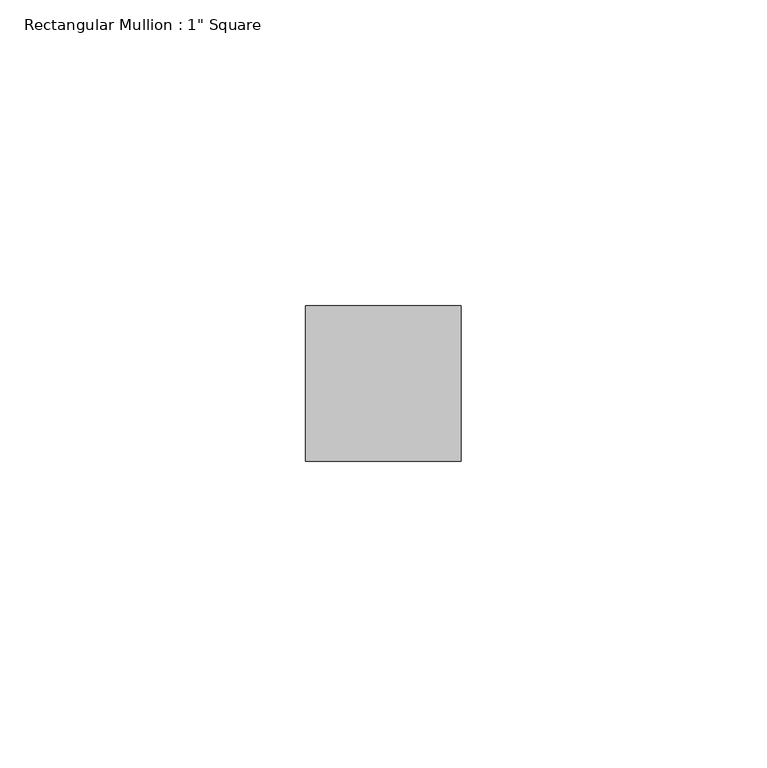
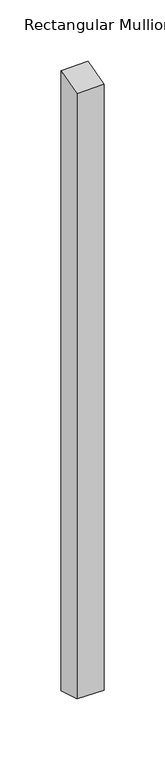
"""IFC4 building model written with IfcOpenShell, lengths in millimetres: member geometry."""

from ifc_helpers import new_model, si_unit, origin, place, context, project, spatial, faceted_brep, source, transform, mapped, element, save


def member_77008461(model_context):
    return source(origin(), model_context, "Body", "Brep", [
        faceted_brep([(-25.4, 12.7, 3.273513), (0.0, 12.7, 3.7022396), (0.0, 12.7, -613.3022396), (-25.4, 12.7, -612.873513), (-25.4, -12.7, -4.1309662), (-25.4, -12.7, -605.4690338), (0.0, -12.7, -3.7022396), (0.0, -12.7, -605.8977604)], [[[0, 1, 2, 3]], [[4, 0, 3, 5]], [[6, 4, 5, 7]], [[1, 6, 7, 2]], [[1, 0, 4, 6]], [[2, 7, 5, 3]]]),
    ])


if __name__ == "__main__":
    model = new_model("IFC4")
    model_context = context("Model", 3, world=origin())
    ifc_project = project(units=[si_unit("LENGTHUNIT", "METRE", prefix="MILLI")], contexts=[model_context])
    site = spatial("IfcSite", under=ifc_project)
    building = spatial("IfcBuilding", under=site)
    placement = place(None, origin())
    member_shape = member_77008461(model_context)
    element("IfcMember", 1, ObjectType="Rectangular Mullion : 1\" Square", at=placement, inside=building, context=model_context, shape_type="MappedRepresentation", body=[
        mapped(member_shape, transform((0.0, 0.0, 0.0), x_axis=(1.0, 0.0, 0.0), y_axis=(0.0, 1.0, 0.0), z_axis=(0.0, 0.0, 1.0))),
    ])
    save(model, "model.ifc")
